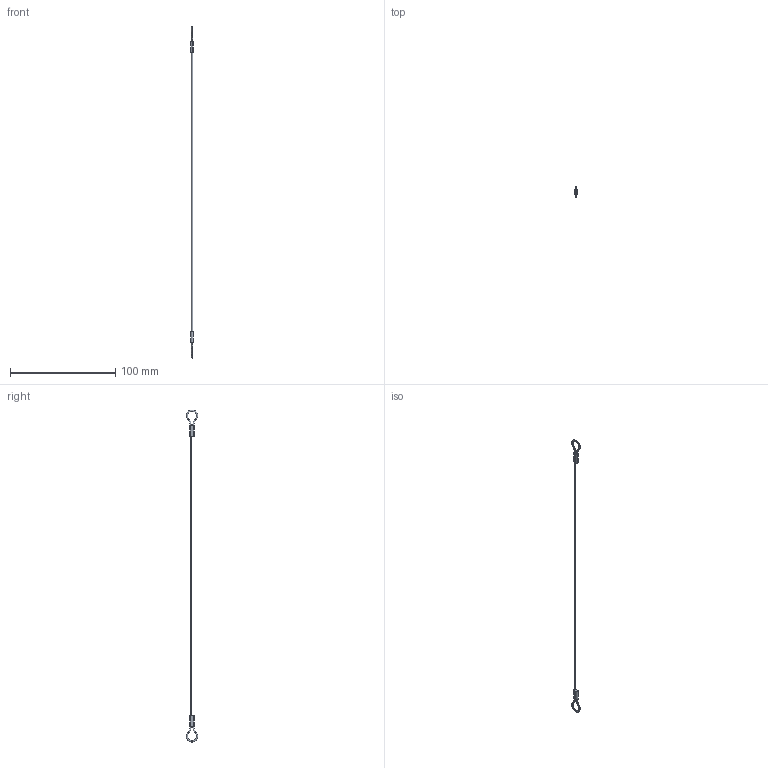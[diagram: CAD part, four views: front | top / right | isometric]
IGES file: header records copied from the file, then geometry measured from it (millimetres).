
Start section: SolidWorks IGES file using analytic representation for surfaces
Global section: file name: C:\Users\ianosborn\Desktop\LA1065_v2\LA1065_v2_20260320_IGES\LA1065.I04-304N1.igs; native system: SolidWorks 2019; preprocessor: SolidWorks 2019; author: IanOsborn; date: 260323.154301; units: millimetre
Bounding box: 2.4 x 10.78 x 315.57 mm (x, y, z)
Surface area: 1537.8 mm2 (no closed solid volume)
Topology: 0 solids, 0 shells, 30 faces, 336 edges, 336 vertices
Faces by surface type: bspline 22, revolution 8
